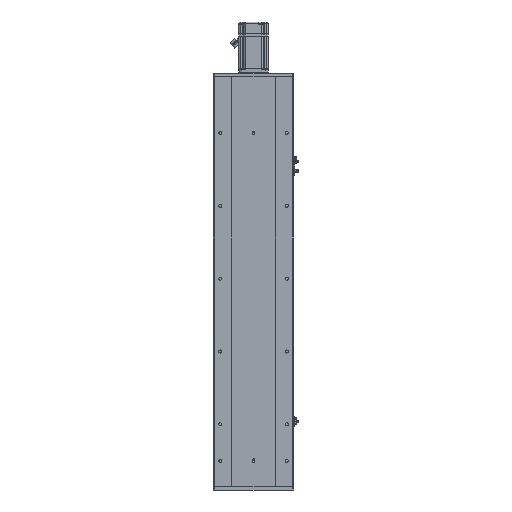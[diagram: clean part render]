
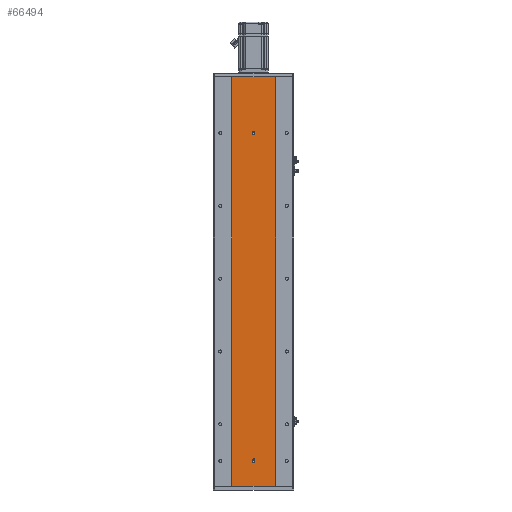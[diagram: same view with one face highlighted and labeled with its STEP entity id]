
A CAD part, front view. The second image highlights one B-rep face of the part: STEP entity #66494.
In plain terms, the highlighted planar face has unit normal (0, -1, 0).
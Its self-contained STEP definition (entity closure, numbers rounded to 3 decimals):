
#105 = VERTEX_POINT ( 'NONE', #26551 ) ;
#197 = ORIENTED_EDGE ( 'NONE', *, *, #20443, .F. ) ;
#389 = ORIENTED_EDGE ( 'NONE', *, *, #22183, .F. ) ;
#415 = DIRECTION ( 'NONE',  ( 0., 0., -1. ) ) ;
#1525 = DIRECTION ( 'NONE',  ( 0., 0., 1. ) ) ;
#1814 = DIRECTION ( 'NONE',  ( 0., -1., 0. ) ) ;
#1860 = CARTESIAN_POINT ( 'NONE',  ( -60., 0., 1124. ) ) ;
#4206 = VECTOR ( 'NONE', #31877, 1000. ) ;
#4785 = CIRCLE ( 'NONE', #36838, 4. ) ;
#4885 = VERTEX_POINT ( 'NONE', #51499 ) ;
#6056 = DIRECTION ( 'NONE',  ( 0., 0., -1. ) ) ;
#7396 = VERTEX_POINT ( 'NONE', #28287 ) ;
#8464 = VECTOR ( 'NONE', #6056, 1000. ) ;
#8787 = FACE_BOUND ( 'NONE', #52470, .T. ) ;
#10249 = EDGE_CURVE ( 'NONE', #28074, #4885, #45727, .T. ) ;
#10492 = CARTESIAN_POINT ( 'NONE',  ( 0., 0., 970. ) ) ;
#11234 = DIRECTION ( 'NONE',  ( 0., 0., -1. ) ) ;
#11309 = CARTESIAN_POINT ( 'NONE',  ( -4., 0., 71.5 ) ) ;
#11983 = VECTOR ( 'NONE', #33709, 1000. ) ;
#12197 = EDGE_LOOP ( 'NONE', ( #42647, #197, #58804, #62667 ) ) ;
#13902 = EDGE_CURVE ( 'NONE', #28074, #105, #17605, .T. ) ;
#14355 = VERTEX_POINT ( 'NONE', #31635 ) ;
#14379 = LINE ( 'NONE', #23687, #39575 ) ;
#14698 = ORIENTED_EDGE ( 'NONE', *, *, #42624, .F. ) ;
#15973 = DIRECTION ( 'NONE',  ( 0., 0., -1. ) ) ;
#16748 = VERTEX_POINT ( 'NONE', #61175 ) ;
#17605 = LINE ( 'NONE', #1860, #11983 ) ;
#18269 = ORIENTED_EDGE ( 'NONE', *, *, #23633, .F. ) ;
#18333 = ORIENTED_EDGE ( 'NONE', *, *, #39684, .F. ) ;
#18800 = CARTESIAN_POINT ( 'NONE',  ( 0., 0., 974. ) ) ;
#19928 = CIRCLE ( 'NONE', #30068, 4. ) ;
#20443 = EDGE_CURVE ( 'NONE', #105, #61966, #35720, .T. ) ;
#22183 = EDGE_CURVE ( 'NONE', #47275, #37994, #14379, .T. ) ;
#23633 = EDGE_CURVE ( 'NONE', #14355, #7396, #42705, .T. ) ;
#23687 = CARTESIAN_POINT ( 'NONE',  ( 4., 0., 71.5 ) ) ;
#25588 = DIRECTION ( 'NONE',  ( 0., 0., 1. ) ) ;
#25873 = CARTESIAN_POINT ( 'NONE',  ( 0., 0., 970. ) ) ;
#26551 = CARTESIAN_POINT ( 'NONE',  ( 60., 0., 1124. ) ) ;
#27516 = CARTESIAN_POINT ( 'NONE',  ( 0., 0., 68.5 ) ) ;
#27904 = DIRECTION ( 'NONE',  ( 0., 1., 0. ) ) ;
#28074 = VERTEX_POINT ( 'NONE', #36168 ) ;
#28287 = CARTESIAN_POINT ( 'NONE',  ( -4., 0., 68.5 ) ) ;
#28387 = VECTOR ( 'NONE', #11234, 1000. ) ;
#29270 = DIRECTION ( 'NONE',  ( 0., 0., -1. ) ) ;
#29632 = CARTESIAN_POINT ( 'NONE',  ( 0., 0., 64.5 ) ) ;
#30068 = AXIS2_PLACEMENT_3D ( 'NONE', #10492, #36449, #15973 ) ;
#31582 = CIRCLE ( 'NONE', #38220, 4. ) ;
#31635 = CARTESIAN_POINT ( 'NONE',  ( -4., 0., 71.5 ) ) ;
#31877 = DIRECTION ( 'NONE',  ( 0., 0., -1. ) ) ;
#33709 = DIRECTION ( 'NONE',  ( 1., 0., 0. ) ) ;
#35720 = LINE ( 'NONE', #62675, #28387 ) ;
#36168 = CARTESIAN_POINT ( 'NONE',  ( -60., 0., 1124. ) ) ;
#36449 = DIRECTION ( 'NONE',  ( 0., -1., 0. ) ) ;
#36838 = AXIS2_PLACEMENT_3D ( 'NONE', #59985, #54520, #29270 ) ;
#37502 = CARTESIAN_POINT ( 'NONE',  ( -60., 0., 1124. ) ) ;
#37994 = VERTEX_POINT ( 'NONE', #40141 ) ;
#38219 = DIRECTION ( 'NONE',  ( 0., 0., -1. ) ) ;
#38220 = AXIS2_PLACEMENT_3D ( 'NONE', #40184, #39723, #60444 ) ;
#39214 = VECTOR ( 'NONE', #55101, 1000. ) ;
#39575 = VECTOR ( 'NONE', #25588, 1000. ) ;
#39684 = EDGE_CURVE ( 'NONE', #37994, #14355, #31582, .T. ) ;
#39694 = VERTEX_POINT ( 'NONE', #18800 ) ;
#39723 = DIRECTION ( 'NONE',  ( 0., -1., 0. ) ) ;
#40141 = CARTESIAN_POINT ( 'NONE',  ( 4., 0., 71.5 ) ) ;
#40184 = CARTESIAN_POINT ( 'NONE',  ( 0., 0., 71.5 ) ) ;
#41347 = AXIS2_PLACEMENT_3D ( 'NONE', #27516, #1814, #38219 ) ;
#41867 = CIRCLE ( 'NONE', #52198, 4. ) ;
#42624 = EDGE_CURVE ( 'NONE', #39694, #16748, #19928, .T. ) ;
#42647 = ORIENTED_EDGE ( 'NONE', *, *, #60576, .T. ) ;
#42705 = LINE ( 'NONE', #11309, #8464 ) ;
#42924 = EDGE_LOOP ( 'NONE', ( #18269, #18333, #389, #44743, #65338 ) ) ;
#44743 = ORIENTED_EDGE ( 'NONE', *, *, #60854, .F. ) ;
#44781 = CIRCLE ( 'NONE', #41347, 4. ) ;
#45693 = CARTESIAN_POINT ( 'NONE',  ( 60., 0., 0. ) ) ;
#45727 = LINE ( 'NONE', #63045, #4206 ) ;
#47275 = VERTEX_POINT ( 'NONE', #48242 ) ;
#47801 = EDGE_CURVE ( 'NONE', #7396, #63697, #4785, .T. ) ;
#48242 = CARTESIAN_POINT ( 'NONE',  ( 4., 0., 68.5 ) ) ;
#48707 = FACE_OUTER_BOUND ( 'NONE', #12197, .T. ) ;
#51153 = ORIENTED_EDGE ( 'NONE', *, *, #59954, .F. ) ;
#51499 = CARTESIAN_POINT ( 'NONE',  ( -60., 0., 0. ) ) ;
#52198 = AXIS2_PLACEMENT_3D ( 'NONE', #25873, #52724, #415 ) ;
#52470 = EDGE_LOOP ( 'NONE', ( #51153, #14698 ) ) ;
#52724 = DIRECTION ( 'NONE',  ( 0., -1., 0. ) ) ;
#52772 = FACE_BOUND ( 'NONE', #42924, .T. ) ;
#54520 = DIRECTION ( 'NONE',  ( 0., -1., 0. ) ) ;
#54894 = CARTESIAN_POINT ( 'NONE',  ( -60., 0., 0. ) ) ;
#55101 = DIRECTION ( 'NONE',  ( 1., 0., 0. ) ) ;
#58804 = ORIENTED_EDGE ( 'NONE', *, *, #13902, .F. ) ;
#59954 = EDGE_CURVE ( 'NONE', #16748, #39694, #41867, .T. ) ;
#59985 = CARTESIAN_POINT ( 'NONE',  ( 0., 0., 68.5 ) ) ;
#60444 = DIRECTION ( 'NONE',  ( 0., 0., -1. ) ) ;
#60576 = EDGE_CURVE ( 'NONE', #4885, #61966, #66934, .T. ) ;
#60854 = EDGE_CURVE ( 'NONE', #63697, #47275, #44781, .T. ) ;
#61175 = CARTESIAN_POINT ( 'NONE',  ( 0., 0., 966. ) ) ;
#61966 = VERTEX_POINT ( 'NONE', #45693 ) ;
#62667 = ORIENTED_EDGE ( 'NONE', *, *, #10249, .T. ) ;
#62675 = CARTESIAN_POINT ( 'NONE',  ( 60., 0., 1124. ) ) ;
#63045 = CARTESIAN_POINT ( 'NONE',  ( -60., 0., 1124. ) ) ;
#63697 = VERTEX_POINT ( 'NONE', #29632 ) ;
#64102 = PLANE ( 'NONE',  #64603 ) ;
#64603 = AXIS2_PLACEMENT_3D ( 'NONE', #37502, #27904, #1525 ) ;
#65338 = ORIENTED_EDGE ( 'NONE', *, *, #47801, .F. ) ;
#66494 = ADVANCED_FACE ( 'NONE', ( #8787, #52772, #48707 ), #64102, .F. ) ;
#66934 = LINE ( 'NONE', #54894, #39214 ) ;
